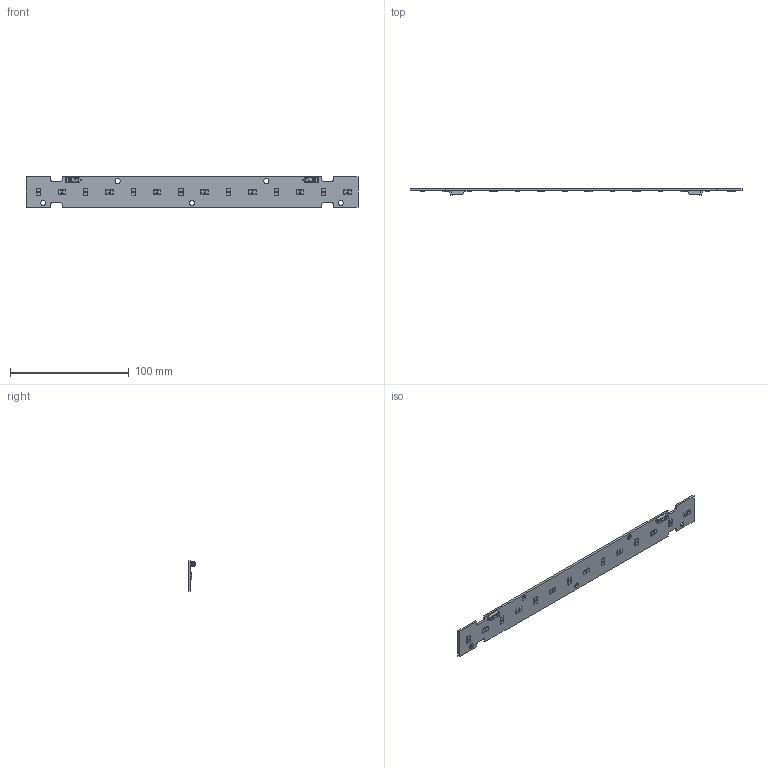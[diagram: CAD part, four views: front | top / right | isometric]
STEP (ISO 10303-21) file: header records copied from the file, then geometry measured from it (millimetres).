
FILE_DESCRIPTION(/* description */ ('Unknown'),/* implementation_level */ '2;1');
FILE_NAME(/* name */ 'LinLED 280x26mm 1000lm 2C 42V Opt G1 sh-000 2019-06-11',/* time_stamp */ '2019-06-11T11:46:33+02:00',/* author */ ('Unknown'),/* organization */ ('Unknown'),/* preprocessor_version */ 'ST-DEVELOPER v16.7',/* originating_system */ 'DEX',/* authorisation */ $);
FILE_SCHEMA (('AUTOMOTIVE_DESIGN {1 0 10303 214 3 1 1}'));
Length unit declared in the file: millimetre
Products named in the file (1): LinLED 280x26mm 1000lm 2C 42V Opt G1 sh-000 2019-06-11
Bounding box: 279 x 5.05 x 26 mm (x, y, z)
Volume: 11723.2 mm3; surface area: 15918.5 mm2
Topology: 1 solids, 1 shells, 955 faces, 2490 edges, 1593 vertices
Faces by surface type: plane 656, cylinder 139, bspline 104, cone 30, sphere 16, torus 10
Full cylindrical faces by diameter (mm): 4.3 x5
Entity records: 38297 total; most frequent: CARTESIAN_POINT 9278, ORIENTED_EDGE 4912, DIRECTION 4038, EDGE_CURVE 2456, LINE 1822, VECTOR 1822, VERTEX_POINT 1582, AXIS2_PLACEMENT_3D 1108
